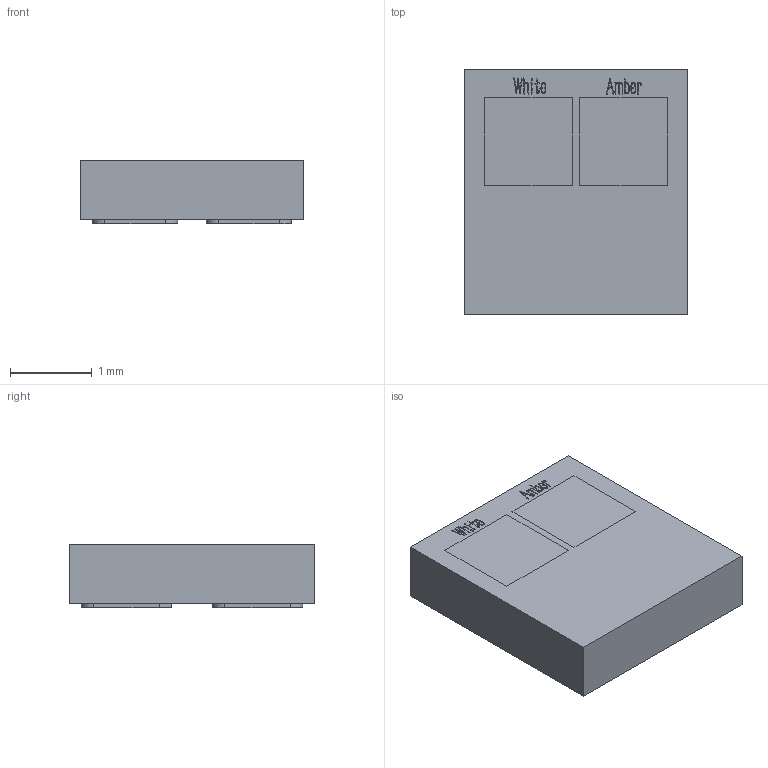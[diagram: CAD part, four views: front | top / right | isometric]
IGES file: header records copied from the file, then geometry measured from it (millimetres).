
Start section: SolidWorks IGES file using analytic representation for surfaces
Global section: file name: C:\Users\user\Desktop\SW22\ヶ蚾陬腑3D恅璃\ABL2.IGS; native system: SolidWorks 2022; preprocessor: SolidWorks 2022; author: user; date: 240125.024636; units: millimetre
Bounding box: 2.73 x 3 x 0.78 mm (x, y, z)
Surface area: 25.6 mm2 (no closed solid volume)
Topology: 0 solids, 0 shells, 283 faces, 1999 edges, 1999 vertices
Faces by surface type: bspline 269, revolution 14
